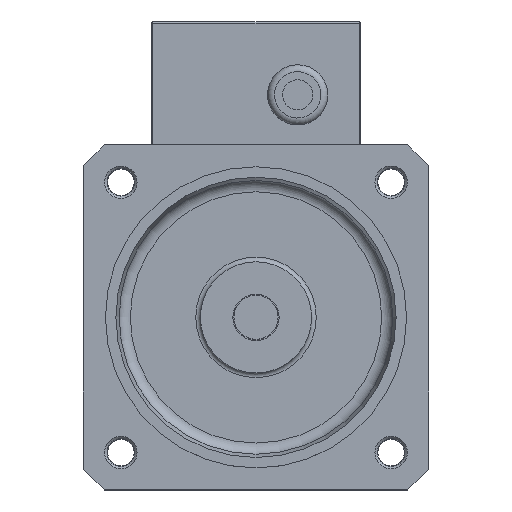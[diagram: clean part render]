
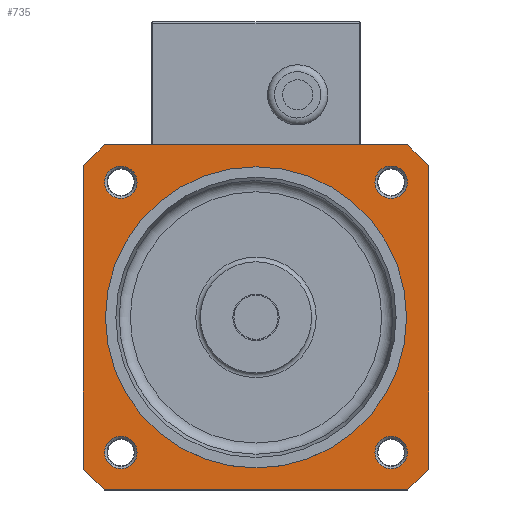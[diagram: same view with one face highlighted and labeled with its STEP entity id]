
A CAD part, top view. The second image highlights one B-rep face of the part: STEP entity #735.
In plain terms, the highlighted planar face has unit normal (0, 0, 1).
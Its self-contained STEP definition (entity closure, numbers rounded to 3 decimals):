
#206=FACE_BOUND('',#2280,.T.);
#207=FACE_BOUND('',#2281,.T.);
#208=FACE_BOUND('',#2282,.T.);
#209=FACE_BOUND('',#2283,.T.);
#210=FACE_BOUND('',#2284,.T.);
#354=PLANE('',#12124);
#735=ADVANCED_FACE('',(#206,#207,#208,#209,#210,#1680),#354,.T.);
#1680=FACE_OUTER_BOUND('',#2285,.T.);
#2280=EDGE_LOOP('',(#4577));
#2281=EDGE_LOOP('',(#4578));
#2282=EDGE_LOOP('',(#4579));
#2283=EDGE_LOOP('',(#4580));
#2284=EDGE_LOOP('',(#4581));
#2285=EDGE_LOOP('',(#4582,#4583,#4584,#4585,#4586,#4587,#4588,#4589));
#2988=CIRCLE('',#12119,6.991);
#2989=CIRCLE('',#12120,7.012);
#2990=CIRCLE('',#12121,6.991);
#2991=CIRCLE('',#12122,7.012);
#2992=CIRCLE('',#12123,65.);
#4577=ORIENTED_EDGE('',*,*,#8560,.T.);
#4578=ORIENTED_EDGE('',*,*,#8561,.T.);
#4579=ORIENTED_EDGE('',*,*,#8562,.T.);
#4580=ORIENTED_EDGE('',*,*,#8563,.T.);
#4581=ORIENTED_EDGE('',*,*,#8564,.F.);
#4582=ORIENTED_EDGE('',*,*,#8565,.F.);
#4583=ORIENTED_EDGE('',*,*,#8566,.T.);
#4584=ORIENTED_EDGE('',*,*,#8567,.F.);
#4585=ORIENTED_EDGE('',*,*,#8568,.T.);
#4586=ORIENTED_EDGE('',*,*,#8569,.F.);
#4587=ORIENTED_EDGE('',*,*,#8570,.T.);
#4588=ORIENTED_EDGE('',*,*,#8571,.F.);
#4589=ORIENTED_EDGE('',*,*,#8572,.T.);
#7237=VERTEX_POINT('',#17798);
#7238=VERTEX_POINT('',#17800);
#7239=VERTEX_POINT('',#17802);
#7240=VERTEX_POINT('',#17804);
#7241=VERTEX_POINT('',#17806);
#7242=VERTEX_POINT('',#17808);
#7243=VERTEX_POINT('',#17809);
#7244=VERTEX_POINT('',#17811);
#7245=VERTEX_POINT('',#17813);
#7246=VERTEX_POINT('',#17815);
#7247=VERTEX_POINT('',#17817);
#7248=VERTEX_POINT('',#17819);
#7249=VERTEX_POINT('',#17821);
#8560=EDGE_CURVE('',#7237,#7237,#2988,.T.);
#8561=EDGE_CURVE('',#7238,#7238,#2989,.T.);
#8562=EDGE_CURVE('',#7239,#7239,#2990,.T.);
#8563=EDGE_CURVE('',#7240,#7240,#2991,.T.);
#8564=EDGE_CURVE('',#7241,#7241,#2992,.T.);
#8565=EDGE_CURVE('',#7242,#7243,#10029,.T.);
#8566=EDGE_CURVE('',#7242,#7244,#10030,.T.);
#8567=EDGE_CURVE('',#7245,#7244,#10031,.T.);
#8568=EDGE_CURVE('',#7245,#7246,#10032,.T.);
#8569=EDGE_CURVE('',#7247,#7246,#10033,.T.);
#8570=EDGE_CURVE('',#7247,#7248,#10034,.T.);
#8571=EDGE_CURVE('',#7249,#7248,#10035,.T.);
#8572=EDGE_CURVE('',#7249,#7243,#10036,.T.);
#10029=LINE('',#17807,#11033);
#10030=LINE('',#17810,#11034);
#10031=LINE('',#17812,#11035);
#10032=LINE('',#17814,#11036);
#10033=LINE('',#17816,#11037);
#10034=LINE('',#17818,#11038);
#10035=LINE('',#17820,#11039);
#10036=LINE('',#17822,#11040);
#11033=VECTOR('',#14207,1.);
#11034=VECTOR('',#14208,1.);
#11035=VECTOR('',#14209,1.);
#11036=VECTOR('',#14210,1.);
#11037=VECTOR('',#14211,1.);
#11038=VECTOR('',#14212,1.);
#11039=VECTOR('',#14213,1.);
#11040=VECTOR('',#14214,1.);
#12119=AXIS2_PLACEMENT_3D('',#17797,#14197,#14198);
#12120=AXIS2_PLACEMENT_3D('',#17799,#14199,#14200);
#12121=AXIS2_PLACEMENT_3D('',#17801,#14201,#14202);
#12122=AXIS2_PLACEMENT_3D('',#17803,#14203,#14204);
#12123=AXIS2_PLACEMENT_3D('',#17805,#14205,#14206);
#12124=AXIS2_PLACEMENT_3D('',#17823,#14215,#14216);
#14197=DIRECTION('',(0.,0.,-1.));
#14198=DIRECTION('',(1.,0.,0.));
#14199=DIRECTION('',(0.,0.,-1.));
#14200=DIRECTION('',(1.,0.,0.));
#14201=DIRECTION('',(0.,0.,-1.));
#14202=DIRECTION('',(1.,0.,0.));
#14203=DIRECTION('',(0.,0.,-1.));
#14204=DIRECTION('',(1.,0.,0.));
#14205=DIRECTION('',(0.,0.,1.));
#14206=DIRECTION('',(1.,0.,0.));
#14207=DIRECTION('',(0.,1.,0.));
#14208=DIRECTION('',(0.707,-0.707,0.));
#14209=DIRECTION('',(-1.,0.,0.));
#14210=DIRECTION('',(0.707,0.707,0.));
#14211=DIRECTION('',(0.,-1.,0.));
#14212=DIRECTION('',(-0.707,0.707,0.));
#14213=DIRECTION('',(1.,0.,0.));
#14214=DIRECTION('',(-0.707,-0.707,0.));
#14215=DIRECTION('',(0.,0.,1.));
#14216=DIRECTION('',(1.,0.,0.));
#17797=CARTESIAN_POINT('',(132.836,132.836,12.));
#17798=CARTESIAN_POINT('',(139.827,132.836,12.));
#17799=CARTESIAN_POINT('',(132.836,16.164,12.));
#17800=CARTESIAN_POINT('',(139.848,16.164,12.));
#17801=CARTESIAN_POINT('',(16.164,16.164,12.));
#17802=CARTESIAN_POINT('',(23.155,16.164,12.));
#17803=CARTESIAN_POINT('',(16.164,132.836,12.));
#17804=CARTESIAN_POINT('',(23.175,132.836,12.));
#17805=CARTESIAN_POINT('',(74.5,74.5,12.));
#17806=CARTESIAN_POINT('',(139.5,74.5,12.));
#17807=CARTESIAN_POINT('',(0.,74.5,12.));
#17808=CARTESIAN_POINT('',(0.,8.99,12.));
#17809=CARTESIAN_POINT('',(0.,140.01,12.));
#17810=CARTESIAN_POINT('',(4.495,4.495,12.));
#17811=CARTESIAN_POINT('',(8.99,0.,12.));
#17812=CARTESIAN_POINT('',(74.5,0.,12.));
#17813=CARTESIAN_POINT('',(140.01,0.,12.));
#17814=CARTESIAN_POINT('',(144.505,4.495,12.));
#17815=CARTESIAN_POINT('',(149.,8.99,12.));
#17816=CARTESIAN_POINT('',(149.,74.5,12.));
#17817=CARTESIAN_POINT('',(149.,140.01,12.));
#17818=CARTESIAN_POINT('',(144.505,144.505,12.));
#17819=CARTESIAN_POINT('',(140.01,149.,12.));
#17820=CARTESIAN_POINT('',(74.5,149.,12.));
#17821=CARTESIAN_POINT('',(8.99,149.,12.));
#17822=CARTESIAN_POINT('',(4.495,144.505,12.));
#17823=CARTESIAN_POINT('',(74.5,74.5,12.));
